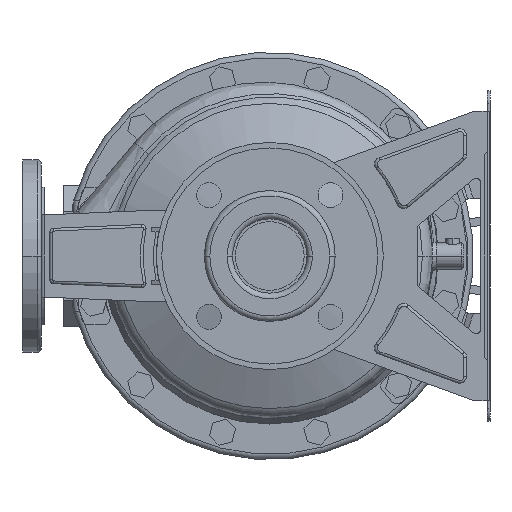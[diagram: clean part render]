
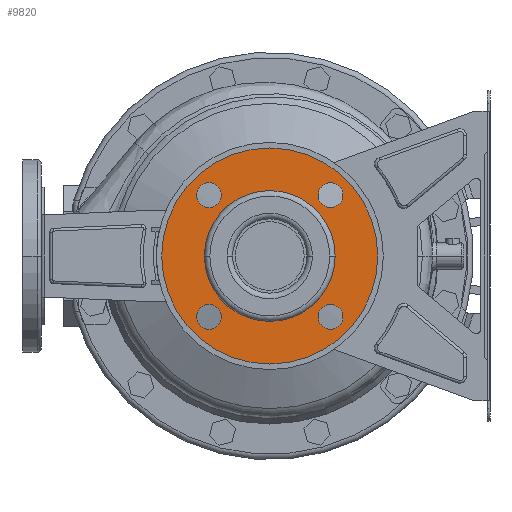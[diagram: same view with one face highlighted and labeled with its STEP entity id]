
A CAD part, left-side view. The second image highlights one B-rep face of the part: STEP entity #9820.
In plain terms, the highlighted planar face has unit normal (-1, 0, 0).
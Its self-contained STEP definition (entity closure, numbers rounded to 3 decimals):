
#9249=CARTESIAN_POINT('',(12.,0.,0.));
#9250=DIRECTION('',(-1.,0.,0.));
#9251=DIRECTION('',(0.,1.,0.));
#9252=AXIS2_PLACEMENT_3D('',#9249,#9250,#9251);
#9254=CARTESIAN_POINT('',(12.,0.,0.));
#9255=DIRECTION('',(1.,0.,0.));
#9256=DIRECTION('',(0.,1.,0.));
#9257=AXIS2_PLACEMENT_3D('',#9254,#9255,#9256);
#9259=CARTESIAN_POINT('',(12.,-44.194,44.194));
#9260=DIRECTION('',(1.,0.,0.));
#9261=DIRECTION('',(0.,1.,0.));
#9262=AXIS2_PLACEMENT_3D('',#9259,#9260,#9261);
#9264=CARTESIAN_POINT('',(12.,-44.194,44.194));
#9265=DIRECTION('',(1.,0.,0.));
#9266=DIRECTION('',(0.,-1.,0.));
#9267=AXIS2_PLACEMENT_3D('',#9264,#9265,#9266);
#9269=CARTESIAN_POINT('',(12.,-44.194,-44.194));
#9270=DIRECTION('',(1.,0.,0.));
#9271=DIRECTION('',(0.,0.,1.));
#9272=AXIS2_PLACEMENT_3D('',#9269,#9270,#9271);
#9274=CARTESIAN_POINT('',(12.,-44.194,-44.194));
#9275=DIRECTION('',(1.,0.,0.));
#9276=DIRECTION('',(0.,0.,-1.));
#9277=AXIS2_PLACEMENT_3D('',#9274,#9275,#9276);
#9279=CARTESIAN_POINT('',(12.,44.194,-44.194));
#9280=DIRECTION('',(1.,0.,0.));
#9281=DIRECTION('',(0.,-1.,0.));
#9282=AXIS2_PLACEMENT_3D('',#9279,#9280,#9281);
#9284=CARTESIAN_POINT('',(12.,44.194,-44.194));
#9285=DIRECTION('',(1.,0.,0.));
#9286=DIRECTION('',(0.,1.,0.));
#9287=AXIS2_PLACEMENT_3D('',#9284,#9285,#9286);
#9289=CARTESIAN_POINT('',(12.,44.194,44.194));
#9290=DIRECTION('',(1.,0.,0.));
#9291=DIRECTION('',(0.,0.,-1.));
#9292=AXIS2_PLACEMENT_3D('',#9289,#9290,#9291);
#9294=CARTESIAN_POINT('',(12.,44.194,44.194));
#9295=DIRECTION('',(1.,0.,0.));
#9296=DIRECTION('',(0.,0.,1.));
#9297=AXIS2_PLACEMENT_3D('',#9294,#9295,#9296);
#9299=CARTESIAN_POINT('',(12.,0.,0.));
#9300=DIRECTION('',(1.,0.,0.));
#9301=DIRECTION('',(0.,1.,0.));
#9302=AXIS2_PLACEMENT_3D('',#9299,#9300,#9301);
#9312=CARTESIAN_POINT('',(12.,0.,0.));
#9313=DIRECTION('',(-1.,0.,0.));
#9314=DIRECTION('',(0.,1.,0.));
#9315=AXIS2_PLACEMENT_3D('',#9312,#9313,#9314);
#9420=CARTESIAN_POINT('',(12.,78.5,0.));
#9422=VERTEX_POINT('',#9420);
#9423=CARTESIAN_POINT('',(12.,47.5,0.));
#9425=VERTEX_POINT('',#9423);
#9452=CARTESIAN_POINT('',(12.,-78.5,0.));
#9454=VERTEX_POINT('',#9452);
#9455=CARTESIAN_POINT('',(12.,-47.5,0.));
#9457=VERTEX_POINT('',#9455);
#9467=CARTESIAN_POINT('',(12.,-35.194,44.194));
#9468=CARTESIAN_POINT('',(12.,-53.194,44.194));
#9469=VERTEX_POINT('',#9467);
#9470=VERTEX_POINT('',#9468);
#9475=CARTESIAN_POINT('',(12.,-44.194,-35.194));
#9476=CARTESIAN_POINT('',(12.,-44.194,-53.194));
#9477=VERTEX_POINT('',#9475);
#9478=VERTEX_POINT('',#9476);
#9483=CARTESIAN_POINT('',(12.,35.194,-44.194));
#9484=CARTESIAN_POINT('',(12.,53.194,-44.194));
#9485=VERTEX_POINT('',#9483);
#9486=VERTEX_POINT('',#9484);
#9491=CARTESIAN_POINT('',(12.,44.194,35.194));
#9492=CARTESIAN_POINT('',(12.,44.194,53.194));
#9493=VERTEX_POINT('',#9491);
#9494=VERTEX_POINT('',#9492);
#9781=CARTESIAN_POINT('',(12.,0.,0.));
#9782=DIRECTION('',(1.,0.,0.));
#9783=DIRECTION('',(0.,-1.,0.));
#9784=AXIS2_PLACEMENT_3D('',#9781,#9782,#9783);
#9785=PLANE('',#9784);
#9786=ORIENTED_EDGE('',*,*,#9774,.F.);
#9787=ORIENTED_EDGE('',*,*,#9763,.T.);
#9788=EDGE_LOOP('',(#9786,#9787));
#9789=FACE_OUTER_BOUND('',#9788,.F.);
#9791=ORIENTED_EDGE('',*,*,#9790,.F.);
#9793=ORIENTED_EDGE('',*,*,#9792,.T.);
#9794=EDGE_LOOP('',(#9791,#9793));
#9795=FACE_BOUND('',#9794,.F.);
#9797=ORIENTED_EDGE('',*,*,#9796,.F.);
#9799=ORIENTED_EDGE('',*,*,#9798,.F.);
#9800=EDGE_LOOP('',(#9797,#9799));
#9801=FACE_BOUND('',#9800,.F.);
#9803=ORIENTED_EDGE('',*,*,#9802,.F.);
#9805=ORIENTED_EDGE('',*,*,#9804,.F.);
#9806=EDGE_LOOP('',(#9803,#9805));
#9807=FACE_BOUND('',#9806,.F.);
#9809=ORIENTED_EDGE('',*,*,#9808,.F.);
#9811=ORIENTED_EDGE('',*,*,#9810,.F.);
#9812=EDGE_LOOP('',(#9809,#9811));
#9813=FACE_BOUND('',#9812,.F.);
#9815=ORIENTED_EDGE('',*,*,#9814,.F.);
#9817=ORIENTED_EDGE('',*,*,#9816,.F.);
#9818=EDGE_LOOP('',(#9815,#9817));
#9819=FACE_BOUND('',#9818,.F.);
#9253=CIRCLE('',#9252,78.5);
#9258=CIRCLE('',#9257,78.5);
#9263=CIRCLE('',#9262,9.);
#9268=CIRCLE('',#9267,9.);
#9273=CIRCLE('',#9272,9.);
#9278=CIRCLE('',#9277,9.);
#9283=CIRCLE('',#9282,9.);
#9288=CIRCLE('',#9287,9.);
#9293=CIRCLE('',#9292,9.);
#9298=CIRCLE('',#9297,9.);
#9303=CIRCLE('',#9302,47.5);
#9316=CIRCLE('',#9315,47.5);
#9763=EDGE_CURVE('',#9422,#9454,#9258,.T.);
#9774=EDGE_CURVE('',#9422,#9454,#9253,.T.);
#9790=EDGE_CURVE('',#9425,#9457,#9303,.T.);
#9792=EDGE_CURVE('',#9425,#9457,#9316,.T.);
#9796=EDGE_CURVE('',#9469,#9470,#9263,.T.);
#9798=EDGE_CURVE('',#9470,#9469,#9268,.T.);
#9802=EDGE_CURVE('',#9477,#9478,#9273,.T.);
#9804=EDGE_CURVE('',#9478,#9477,#9278,.T.);
#9808=EDGE_CURVE('',#9485,#9486,#9283,.T.);
#9810=EDGE_CURVE('',#9486,#9485,#9288,.T.);
#9814=EDGE_CURVE('',#9493,#9494,#9293,.T.);
#9816=EDGE_CURVE('',#9494,#9493,#9298,.T.);
#9820=ADVANCED_FACE('',(#9789,#9795,#9801,#9807,#9813,#9819),#9785,.F.);
